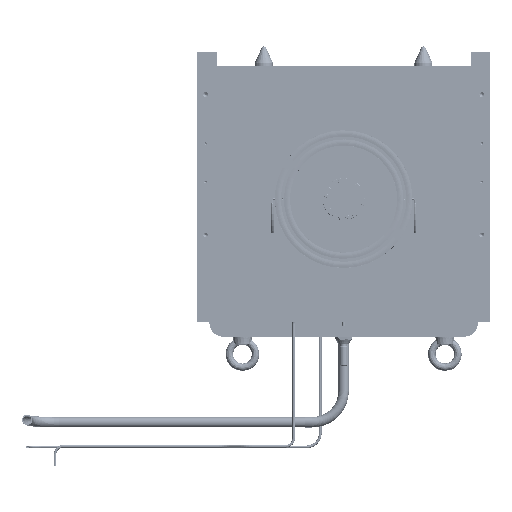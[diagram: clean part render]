
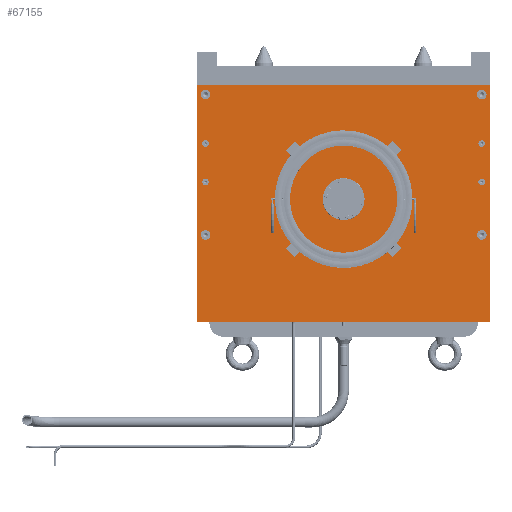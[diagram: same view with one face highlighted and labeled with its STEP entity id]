
A CAD part, front view. The second image highlights one B-rep face of the part: STEP entity #67155.
In plain terms, the highlighted planar face has unit normal (0, -1, 0) as drawn and (0, 0, 1) by its records, which use the part's own axes.
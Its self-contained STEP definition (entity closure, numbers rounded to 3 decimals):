
#2021=FACE_BOUND('',#18501,.T.);
#2022=FACE_BOUND('',#18502,.T.);
#2023=FACE_BOUND('',#18503,.T.);
#2024=FACE_BOUND('',#18504,.T.);
#2025=FACE_BOUND('',#18505,.T.);
#2026=FACE_BOUND('',#18506,.T.);
#2027=FACE_BOUND('',#18507,.T.);
#2028=FACE_BOUND('',#18508,.T.);
#2029=FACE_BOUND('',#18509,.T.);
#2588=PLANE('',#77700);
#10337=CIRCLE('',#77605,53.);
#10338=CIRCLE('',#77606,53.);
#10357=CIRCLE('',#77639,12.);
#10358=CIRCLE('',#77640,12.);
#10362=CIRCLE('',#77647,12.);
#10363=CIRCLE('',#77648,12.);
#10367=CIRCLE('',#77655,12.);
#10368=CIRCLE('',#77656,12.);
#10372=CIRCLE('',#77663,12.);
#10373=CIRCLE('',#77664,12.);
#10377=CIRCLE('',#77671,17.5);
#10378=CIRCLE('',#77672,17.5);
#10382=CIRCLE('',#77679,17.5);
#10383=CIRCLE('',#77680,17.5);
#10387=CIRCLE('',#77687,17.5);
#10388=CIRCLE('',#77688,17.5);
#10392=CIRCLE('',#77695,17.5);
#10393=CIRCLE('',#77696,17.5);
#14252=FACE_OUTER_BOUND('',#18500,.T.);
#18500=EDGE_LOOP('',(#61010,#61011,#61012,#61013));
#18501=EDGE_LOOP('',(#61014,#61015));
#18502=EDGE_LOOP('',(#61016,#61017));
#18503=EDGE_LOOP('',(#61018,#61019));
#18504=EDGE_LOOP('',(#61020,#61021));
#18505=EDGE_LOOP('',(#61022,#61023));
#18506=EDGE_LOOP('',(#61024,#61025));
#18507=EDGE_LOOP('',(#61026,#61027));
#18508=EDGE_LOOP('',(#61028,#61029));
#18509=EDGE_LOOP('',(#61030,#61031));
#22381=LINE('',#124033,#26262);
#22384=LINE('',#124038,#26265);
#22413=LINE('',#124246,#26294);
#22415=LINE('',#124249,#26296);
#26262=VECTOR('',#99484,10.);
#26265=VECTOR('',#99489,10.);
#26294=VECTOR('',#99730,10.);
#26296=VECTOR('',#99734,10.);
#32733=VERTEX_POINT('',#124030);
#32734=VERTEX_POINT('',#124032);
#32735=VERTEX_POINT('',#124036);
#32746=VERTEX_POINT('',#124061);
#32747=VERTEX_POINT('',#124062);
#32771=VERTEX_POINT('',#124132);
#32772=VERTEX_POINT('',#124133);
#32776=VERTEX_POINT('',#124147);
#32777=VERTEX_POINT('',#124148);
#32781=VERTEX_POINT('',#124162);
#32782=VERTEX_POINT('',#124163);
#32786=VERTEX_POINT('',#124177);
#32787=VERTEX_POINT('',#124178);
#32791=VERTEX_POINT('',#124192);
#32792=VERTEX_POINT('',#124193);
#32796=VERTEX_POINT('',#124207);
#32797=VERTEX_POINT('',#124208);
#32801=VERTEX_POINT('',#124222);
#32802=VERTEX_POINT('',#124223);
#32806=VERTEX_POINT('',#124237);
#32807=VERTEX_POINT('',#124238);
#32808=VERTEX_POINT('',#124245);
#42248=EDGE_CURVE('',#32734,#32733,#22381,.T.);
#42251=EDGE_CURVE('',#32733,#32735,#22384,.T.);
#42262=EDGE_CURVE('',#32746,#32747,#10337,.T.);
#42263=EDGE_CURVE('',#32747,#32746,#10338,.T.);
#42294=EDGE_CURVE('',#32771,#32772,#10357,.T.);
#42295=EDGE_CURVE('',#32772,#32771,#10358,.T.);
#42301=EDGE_CURVE('',#32776,#32777,#10362,.T.);
#42302=EDGE_CURVE('',#32777,#32776,#10363,.T.);
#42308=EDGE_CURVE('',#32781,#32782,#10367,.T.);
#42309=EDGE_CURVE('',#32782,#32781,#10368,.T.);
#42315=EDGE_CURVE('',#32786,#32787,#10372,.T.);
#42316=EDGE_CURVE('',#32787,#32786,#10373,.T.);
#42322=EDGE_CURVE('',#32791,#32792,#10377,.T.);
#42323=EDGE_CURVE('',#32792,#32791,#10378,.T.);
#42329=EDGE_CURVE('',#32796,#32797,#10382,.T.);
#42330=EDGE_CURVE('',#32797,#32796,#10383,.T.);
#42336=EDGE_CURVE('',#32801,#32802,#10387,.T.);
#42337=EDGE_CURVE('',#32802,#32801,#10388,.T.);
#42343=EDGE_CURVE('',#32806,#32807,#10392,.T.);
#42344=EDGE_CURVE('',#32807,#32806,#10393,.T.);
#42347=EDGE_CURVE('',#32808,#32734,#22413,.T.);
#42349=EDGE_CURVE('',#32735,#32808,#22415,.T.);
#61010=ORIENTED_EDGE('',*,*,#42349,.T.);
#61011=ORIENTED_EDGE('',*,*,#42347,.T.);
#61012=ORIENTED_EDGE('',*,*,#42248,.T.);
#61013=ORIENTED_EDGE('',*,*,#42251,.T.);
#61014=ORIENTED_EDGE('',*,*,#42262,.T.);
#61015=ORIENTED_EDGE('',*,*,#42263,.T.);
#61016=ORIENTED_EDGE('',*,*,#42294,.T.);
#61017=ORIENTED_EDGE('',*,*,#42295,.T.);
#61018=ORIENTED_EDGE('',*,*,#42301,.T.);
#61019=ORIENTED_EDGE('',*,*,#42302,.T.);
#61020=ORIENTED_EDGE('',*,*,#42308,.T.);
#61021=ORIENTED_EDGE('',*,*,#42309,.T.);
#61022=ORIENTED_EDGE('',*,*,#42315,.T.);
#61023=ORIENTED_EDGE('',*,*,#42316,.T.);
#61024=ORIENTED_EDGE('',*,*,#42322,.T.);
#61025=ORIENTED_EDGE('',*,*,#42323,.T.);
#61026=ORIENTED_EDGE('',*,*,#42329,.T.);
#61027=ORIENTED_EDGE('',*,*,#42330,.T.);
#61028=ORIENTED_EDGE('',*,*,#42336,.T.);
#61029=ORIENTED_EDGE('',*,*,#42337,.T.);
#61030=ORIENTED_EDGE('',*,*,#42343,.T.);
#61031=ORIENTED_EDGE('',*,*,#42344,.T.);
#67155=ADVANCED_FACE('',(#14252,#2021,#2022,#2023,#2024,#2025,#2026,#2027,
#2028,#2029),#2588,.T.);
#77605=AXIS2_PLACEMENT_3D('',#124063,#99514,#99515);
#77606=AXIS2_PLACEMENT_3D('',#124064,#99516,#99517);
#77639=AXIS2_PLACEMENT_3D('',#124134,#99594,#99595);
#77640=AXIS2_PLACEMENT_3D('',#124135,#99596,#99597);
#77647=AXIS2_PLACEMENT_3D('',#124149,#99612,#99613);
#77648=AXIS2_PLACEMENT_3D('',#124150,#99614,#99615);
#77655=AXIS2_PLACEMENT_3D('',#124164,#99630,#99631);
#77656=AXIS2_PLACEMENT_3D('',#124165,#99632,#99633);
#77663=AXIS2_PLACEMENT_3D('',#124179,#99648,#99649);
#77664=AXIS2_PLACEMENT_3D('',#124180,#99650,#99651);
#77671=AXIS2_PLACEMENT_3D('',#124194,#99666,#99667);
#77672=AXIS2_PLACEMENT_3D('',#124195,#99668,#99669);
#77679=AXIS2_PLACEMENT_3D('',#124209,#99684,#99685);
#77680=AXIS2_PLACEMENT_3D('',#124210,#99686,#99687);
#77687=AXIS2_PLACEMENT_3D('',#124224,#99702,#99703);
#77688=AXIS2_PLACEMENT_3D('',#124225,#99704,#99705);
#77695=AXIS2_PLACEMENT_3D('',#124239,#99720,#99721);
#77696=AXIS2_PLACEMENT_3D('',#124240,#99722,#99723);
#77700=AXIS2_PLACEMENT_3D('',#124250,#99735,#99736);
#99484=DIRECTION('',(1.,0.,0.));
#99489=DIRECTION('',(0.,1.,0.));
#99514=DIRECTION('center_axis',(0.,0.,-1.));
#99515=DIRECTION('ref_axis',(1.,0.,0.));
#99516=DIRECTION('center_axis',(0.,0.,-1.));
#99517=DIRECTION('ref_axis',(1.,0.,0.));
#99594=DIRECTION('center_axis',(0.,0.,-1.));
#99595=DIRECTION('ref_axis',(1.,0.,0.));
#99596=DIRECTION('center_axis',(0.,0.,-1.));
#99597=DIRECTION('ref_axis',(1.,0.,0.));
#99612=DIRECTION('center_axis',(0.,0.,-1.));
#99613=DIRECTION('ref_axis',(1.,0.,0.));
#99614=DIRECTION('center_axis',(0.,0.,-1.));
#99615=DIRECTION('ref_axis',(1.,0.,0.));
#99630=DIRECTION('center_axis',(0.,0.,-1.));
#99631=DIRECTION('ref_axis',(1.,0.,0.));
#99632=DIRECTION('center_axis',(0.,0.,-1.));
#99633=DIRECTION('ref_axis',(1.,0.,0.));
#99648=DIRECTION('center_axis',(0.,0.,-1.));
#99649=DIRECTION('ref_axis',(1.,0.,0.));
#99650=DIRECTION('center_axis',(0.,0.,-1.));
#99651=DIRECTION('ref_axis',(1.,0.,0.));
#99666=DIRECTION('center_axis',(0.,0.,-1.));
#99667=DIRECTION('ref_axis',(1.,0.,0.));
#99668=DIRECTION('center_axis',(0.,0.,-1.));
#99669=DIRECTION('ref_axis',(1.,0.,0.));
#99684=DIRECTION('center_axis',(0.,0.,-1.));
#99685=DIRECTION('ref_axis',(1.,0.,0.));
#99686=DIRECTION('center_axis',(0.,0.,-1.));
#99687=DIRECTION('ref_axis',(1.,0.,0.));
#99702=DIRECTION('center_axis',(0.,0.,-1.));
#99703=DIRECTION('ref_axis',(1.,0.,0.));
#99704=DIRECTION('center_axis',(0.,0.,-1.));
#99705=DIRECTION('ref_axis',(1.,0.,0.));
#99720=DIRECTION('center_axis',(0.,0.,-1.));
#99721=DIRECTION('ref_axis',(1.,0.,0.));
#99722=DIRECTION('center_axis',(0.,0.,-1.));
#99723=DIRECTION('ref_axis',(1.,0.,0.));
#99730=DIRECTION('',(0.,-1.,0.));
#99734=DIRECTION('',(-1.,0.,0.));
#99735=DIRECTION('center_axis',(0.,0.,1.));
#99736=DIRECTION('ref_axis',(1.,0.,0.));
#124030=CARTESIAN_POINT('',(430.,-532.,60.));
#124032=CARTESIAN_POINT('',(-430.,-532.,60.));
#124033=CARTESIAN_POINT('',(-430.,-532.,60.));
#124036=CARTESIAN_POINT('',(430.,532.,60.));
#124038=CARTESIAN_POINT('',(430.,-532.,60.));
#124061=CARTESIAN_POINT('',(68.,0.,60.));
#124062=CARTESIAN_POINT('',(-38.,0.,60.));
#124063=CARTESIAN_POINT('Origin',(15.,0.,60.));
#124064=CARTESIAN_POINT('Origin',(15.,0.,60.));
#124132=CARTESIAN_POINT('',(89.,-502.,60.));
#124133=CARTESIAN_POINT('',(65.,-502.,60.));
#124134=CARTESIAN_POINT('Origin',(77.,-502.,60.));
#124135=CARTESIAN_POINT('Origin',(77.,-502.,60.));
#124147=CARTESIAN_POINT('',(89.,502.,60.));
#124148=CARTESIAN_POINT('',(65.,502.,60.));
#124149=CARTESIAN_POINT('Origin',(77.,502.,60.));
#124150=CARTESIAN_POINT('Origin',(77.,502.,60.));
#124162=CARTESIAN_POINT('',(229.,502.,60.));
#124163=CARTESIAN_POINT('',(205.,502.,60.));
#124164=CARTESIAN_POINT('Origin',(217.,502.,60.));
#124165=CARTESIAN_POINT('Origin',(217.,502.,60.));
#124177=CARTESIAN_POINT('',(229.,-502.,60.));
#124178=CARTESIAN_POINT('',(205.,-502.,60.));
#124179=CARTESIAN_POINT('Origin',(217.,-502.,60.));
#124180=CARTESIAN_POINT('Origin',(217.,-502.,60.));
#124192=CARTESIAN_POINT('',(-97.5,502.,60.));
#124193=CARTESIAN_POINT('',(-132.5,502.,60.));
#124194=CARTESIAN_POINT('Origin',(-115.,502.,60.));
#124195=CARTESIAN_POINT('Origin',(-115.,502.,60.));
#124207=CARTESIAN_POINT('',(412.5,-502.,60.));
#124208=CARTESIAN_POINT('',(377.5,-502.,60.));
#124209=CARTESIAN_POINT('Origin',(395.,-502.,60.));
#124210=CARTESIAN_POINT('Origin',(395.,-502.,60.));
#124222=CARTESIAN_POINT('',(412.5,502.,60.));
#124223=CARTESIAN_POINT('',(377.5,502.,60.));
#124224=CARTESIAN_POINT('Origin',(395.,502.,60.));
#124225=CARTESIAN_POINT('Origin',(395.,502.,60.));
#124237=CARTESIAN_POINT('',(-97.5,-502.,60.));
#124238=CARTESIAN_POINT('',(-132.5,-502.,60.));
#124239=CARTESIAN_POINT('Origin',(-115.,-502.,60.));
#124240=CARTESIAN_POINT('Origin',(-115.,-502.,60.));
#124245=CARTESIAN_POINT('',(-430.,532.,60.));
#124246=CARTESIAN_POINT('',(-430.,532.,60.));
#124249=CARTESIAN_POINT('',(430.,532.,60.));
#124250=CARTESIAN_POINT('Origin',(0.,0.,60.));
